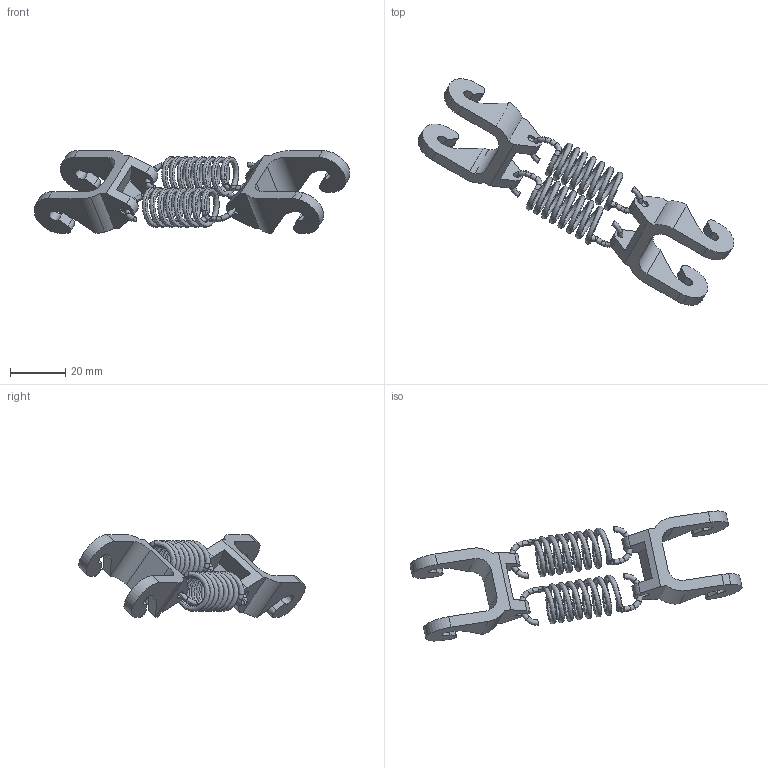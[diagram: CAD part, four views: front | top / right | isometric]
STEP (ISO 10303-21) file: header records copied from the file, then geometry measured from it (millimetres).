
FILE_DESCRIPTION (( 'STEP AP214' ), '1' );
FILE_NAME ('IRB360_8-1130-STD-4D_rev03_LA2_CU_CAD.step', '2025-01-14T07:05:33', ( '' ), ( '' ), 'SwSTEP 2.0', 'SolidWorks 2022', '' );
FILE_SCHEMA (( 'AUTOMOTIVE_DESIGN' ));
Length unit declared in the file: millimetre
Products named in the file (1): IRB360_8-1130-STD-4D_rev03_LA2_CU_CAD
Bounding box: 114.04 x 81.75 x 29.9 mm (x, y, z)
Volume: 11802.7 mm3; surface area: 10699.5 mm2
Topology: 1 solids, 1 shells, 178 faces, 474 edges, 304 vertices
Faces by surface type: cylinder 60, plane 54, torus 52, bspline 12
Entity records: 11346 total; most frequent: CARTESIAN_POINT 6027, DIRECTION 972, ORIENTED_EDGE 948, EDGE_CURVE 474, AXIS2_PLACEMENT_3D 399, VERTEX_POINT 304, CIRCLE 232, EDGE_LOOP 186
